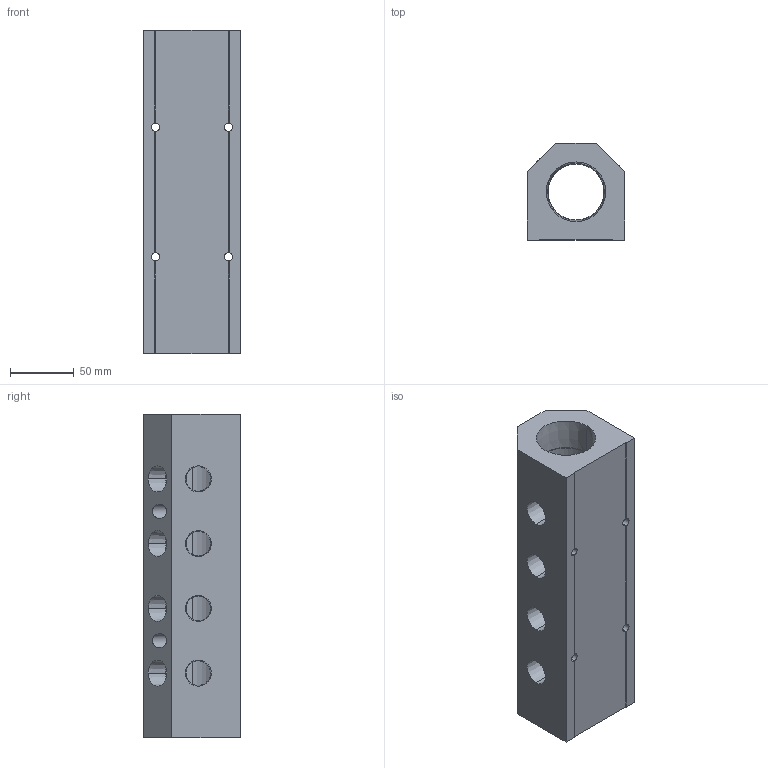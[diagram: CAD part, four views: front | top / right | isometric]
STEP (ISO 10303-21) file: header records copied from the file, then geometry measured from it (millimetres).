
FILE_DESCRIPTION (( 'STEP AP214' ), '1' );
FILE_NAME ('ALM4AB-N8N24-254B.step', '2022-02-07T09:29:08', ( '' ), ( '' ), 'SwSTEP 2.0', 'SolidWorks 2020', '' );
FILE_SCHEMA (( 'AUTOMOTIVE_DESIGN' ));
Length unit declared in the file: millimetre
Products named in the file (1): ALM4AB-N8N24-254B
Bounding box: 76.2 x 76.2 x 254 mm (x, y, z)
Volume: 896747.8 mm3; surface area: 122760 mm2
Topology: 1 solids, 1 shells, 331 faces, 883 edges, 586 vertices
Faces by surface type: plane 232, bspline 61, cone 20, cylinder 18
Entity records: 17782 total; most frequent: CARTESIAN_POINT 6826, ORIENTED_EDGE 1766, DIRECTION 1315, EDGE_CURVE 883, VECTOR 669, LINE 669, VERTEX_POINT 586, EDGE_LOOP 389
